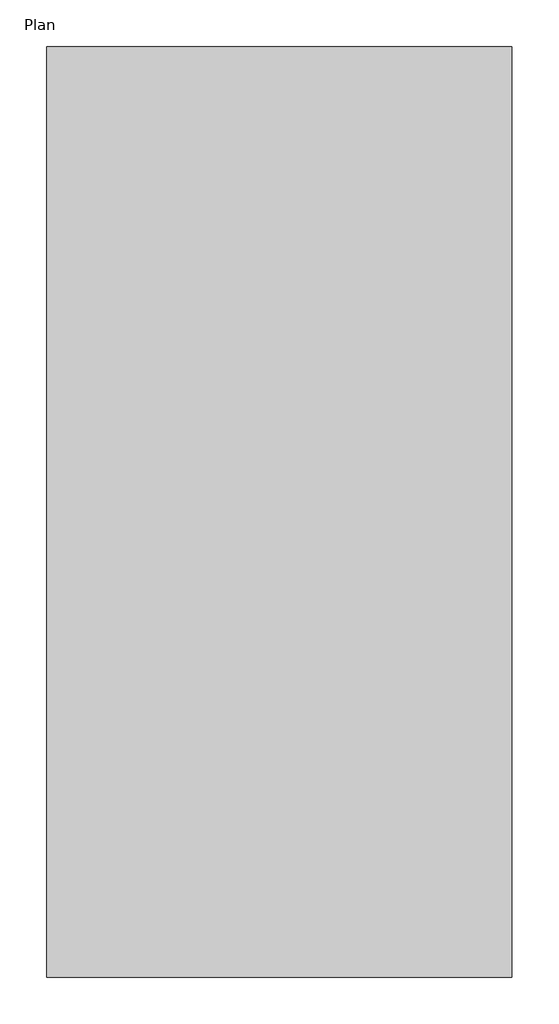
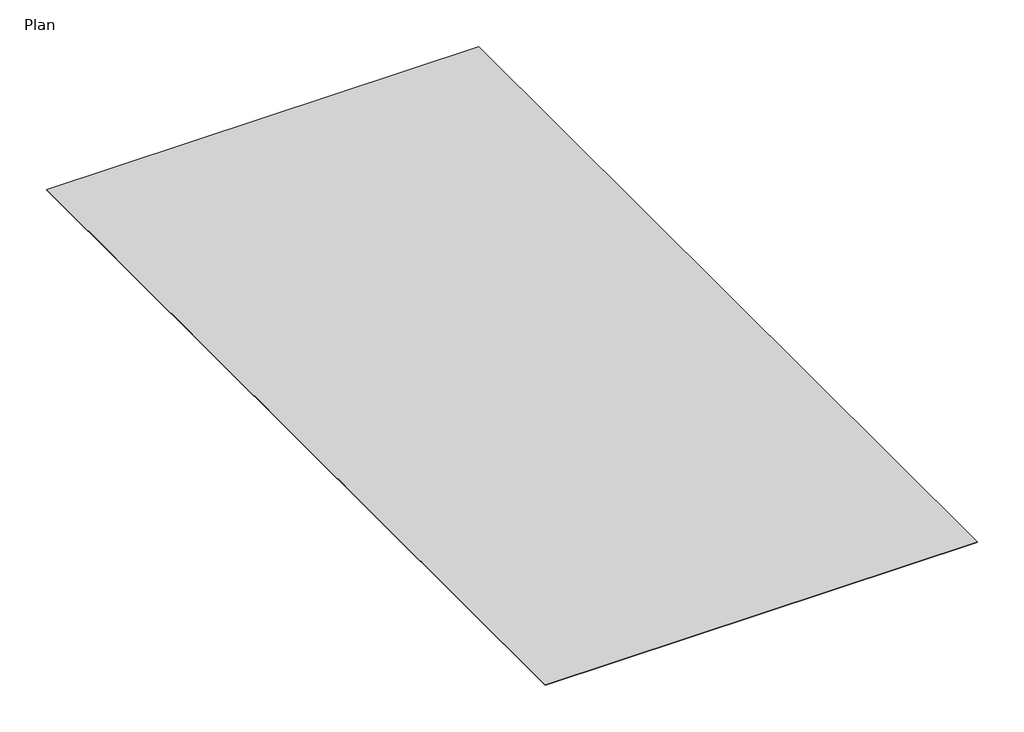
# One storey: 1 proxy.
"""IFC4 building model written with IfcOpenShell, lengths in millimetres."""

from ifc_helpers import new_model, si_unit, origin, place, context, project, spatial, transform, mapped, element, save
from components import generic_models_e22a5b89

model = new_model("IFC4")

# Units and contexts
model_context = context("Model", 3, world=origin())
ifc_project = project(units=[si_unit("LENGTHUNIT", "METRE", prefix="MILLI")], contexts=[model_context])

# Site, building, storey
site = spatial("IfcSite", under=ifc_project)
building = spatial("IfcBuilding", under=site)
storey = spatial("IfcBuildingStorey", under=building, Name="Plan", Elevation=0.0)

# Proxy
placement = place(None, origin())
generic_models_shape = generic_models_e22a5b89(model_context)
element("IfcBuildingElementProxy", 1, Name="AQUAPANEL Tape (10 cm) : AQUAPANEL Tape (10 cm)", ObjectType="AQUAPANEL Tape (10 cm) : AQUAPANEL Tape (10 cm)", at=placement, inside=storey, context=model_context, shape_type="MappedRepresentation", body=[
    mapped(generic_models_shape, transform((0.0, 0.0, 0.0), x_axis=(1.0, 0.0, 0.0), y_axis=(0.0, 1.0, 0.0), z_axis=(0.0, 0.0, 1.0))),
])

save(model, "model.ifc")
